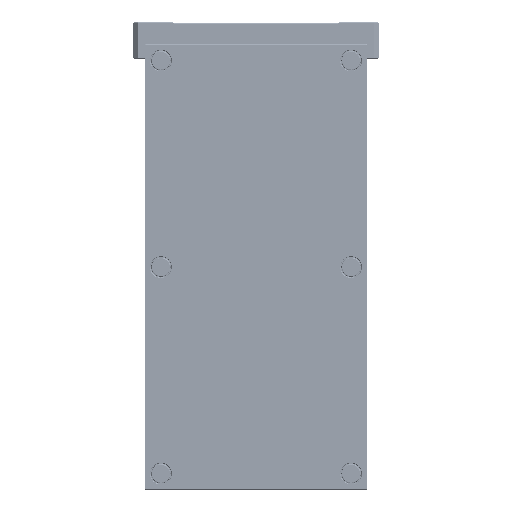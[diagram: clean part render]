
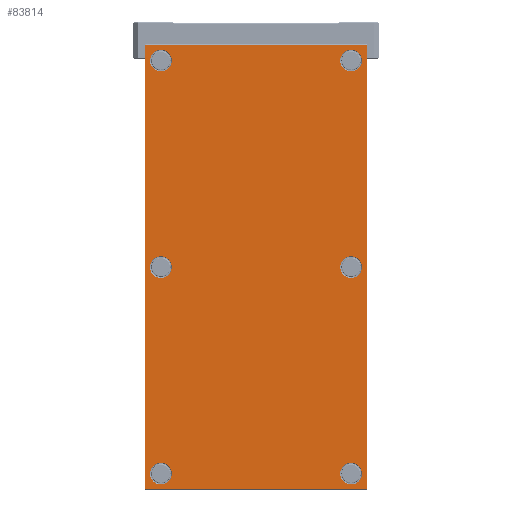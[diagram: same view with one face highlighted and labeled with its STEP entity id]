
A CAD part, front view. The second image highlights one B-rep face of the part: STEP entity #83814.
In plain terms, the highlighted planar face has unit normal (0, -1, 0).
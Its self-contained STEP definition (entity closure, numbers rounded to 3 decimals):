
#82373=CARTESIAN_POINT('',(149.,-9.,-74.));
#82374=DIRECTION('',(0.,-1.,0.));
#82375=DIRECTION('',(0.,0.,-1.));
#82376=AXIS2_PLACEMENT_3D('',#82373,#82374,#82375);
#82378=DIRECTION('',(1.,0.,0.));
#82379=VECTOR('',#82378,298.);
#82380=CARTESIAN_POINT('',(-149.,-9.,
-74.5));
#82381=LINE('',#82380,#82379);
#82382=CARTESIAN_POINT('',(-149.,-9.,-74.));
#82383=DIRECTION('',(0.,-1.,0.));
#82384=DIRECTION('',(-1.,0.,0.));
#82385=AXIS2_PLACEMENT_3D('',#82382,#82383,#82384);
#82387=DIRECTION('',(0.,0.,-1.));
#82388=VECTOR('',#82387,148.);
#82389=CARTESIAN_POINT('',(-149.5,-9.,74.));
#82390=LINE('',#82389,#82388);
#82391=CARTESIAN_POINT('',(-149.,-9.,74.));
#82392=DIRECTION('',(0.,-1.,0.));
#82393=DIRECTION('',(0.,0.,1.));
#82394=AXIS2_PLACEMENT_3D('',#82391,#82392,#82393);
#82396=DIRECTION('',(-1.,0.,0.));
#82397=VECTOR('',#82396,298.);
#82398=CARTESIAN_POINT('',(149.,-9.,
74.5));
#82399=LINE('',#82398,#82397);
#82400=CARTESIAN_POINT('',(149.,-9.,74.));
#82401=DIRECTION('',(0.,-1.,0.));
#82402=DIRECTION('',(1.,0.,0.));
#82403=AXIS2_PLACEMENT_3D('',#82400,#82401,#82402);
#82405=DIRECTION('',(0.,0.,1.));
#82406=VECTOR('',#82405,148.);
#82407=CARTESIAN_POINT('',(149.5,-9.,-74.));
#82408=LINE('',#82407,#82406);
#82409=CARTESIAN_POINT('',(-139.,-9.,-64.));
#82410=DIRECTION('',(0.,1.,0.));
#82411=DIRECTION('',(1.,0.,0.));
#82412=AXIS2_PLACEMENT_3D('',#82409,#82410,#82411);
#82414=CARTESIAN_POINT('',(-139.,-9.,-64.));
#82415=DIRECTION('',(0.,1.,0.));
#82416=DIRECTION('',(-1.,0.,0.));
#82417=AXIS2_PLACEMENT_3D('',#82414,#82415,#82416);
#82419=CARTESIAN_POINT('',(0.,-9.,-64.));
#82420=DIRECTION('',(0.,1.,0.));
#82421=DIRECTION('',(1.,0.,0.));
#82422=AXIS2_PLACEMENT_3D('',#82419,#82420,#82421);
#82424=CARTESIAN_POINT('',(0.,-9.,-64.));
#82425=DIRECTION('',(0.,1.,0.));
#82426=DIRECTION('',(-1.,0.,0.));
#82427=AXIS2_PLACEMENT_3D('',#82424,#82425,#82426);
#82429=CARTESIAN_POINT('',(139.,-9.,-64.));
#82430=DIRECTION('',(0.,1.,0.));
#82431=DIRECTION('',(1.,0.,0.));
#82432=AXIS2_PLACEMENT_3D('',#82429,#82430,#82431);
#82434=CARTESIAN_POINT('',(139.,-9.,-64.));
#82435=DIRECTION('',(0.,1.,0.));
#82436=DIRECTION('',(-1.,0.,0.));
#82437=AXIS2_PLACEMENT_3D('',#82434,#82435,#82436);
#82439=CARTESIAN_POINT('',(139.,-9.,64.));
#82440=DIRECTION('',(0.,1.,0.));
#82441=DIRECTION('',(1.,0.,0.));
#82442=AXIS2_PLACEMENT_3D('',#82439,#82440,#82441);
#82444=CARTESIAN_POINT('',(139.,-9.,64.));
#82445=DIRECTION('',(0.,1.,0.));
#82446=DIRECTION('',(-1.,0.,0.));
#82447=AXIS2_PLACEMENT_3D('',#82444,#82445,#82446);
#82449=CARTESIAN_POINT('',(0.,-9.,64.));
#82450=DIRECTION('',(0.,1.,0.));
#82451=DIRECTION('',(1.,0.,0.));
#82452=AXIS2_PLACEMENT_3D('',#82449,#82450,#82451);
#82454=CARTESIAN_POINT('',(0.,-9.,64.));
#82455=DIRECTION('',(0.,1.,0.));
#82456=DIRECTION('',(-1.,0.,0.));
#82457=AXIS2_PLACEMENT_3D('',#82454,#82455,#82456);
#82459=CARTESIAN_POINT('',(-139.,-9.,64.));
#82460=DIRECTION('',(0.,1.,0.));
#82461=DIRECTION('',(1.,0.,0.));
#82462=AXIS2_PLACEMENT_3D('',#82459,#82460,#82461);
#82464=CARTESIAN_POINT('',(-139.,-9.,64.));
#82465=DIRECTION('',(0.,1.,0.));
#82466=DIRECTION('',(-1.,0.,0.));
#82467=AXIS2_PLACEMENT_3D('',#82464,#82465,#82466);
#83543=CARTESIAN_POINT('',(149.,-9.,-74.5));
#83544=CARTESIAN_POINT('',(149.5,-9.,-74.));
#83545=VERTEX_POINT('',#83543);
#83546=VERTEX_POINT('',#83544);
#83551=CARTESIAN_POINT('',(149.5,-9.,
74.));
#83552=VERTEX_POINT('',#83551);
#83555=CARTESIAN_POINT('',(149.,-9.,74.5));
#83556=VERTEX_POINT('',#83555);
#83559=CARTESIAN_POINT('',(-149.,-9.,
74.5));
#83560=VERTEX_POINT('',#83559);
#83563=CARTESIAN_POINT('',(-149.5,-9.,74.));
#83564=VERTEX_POINT('',#83563);
#83567=CARTESIAN_POINT('',(-149.5,-9.,
-74.));
#83568=VERTEX_POINT('',#83567);
#83571=CARTESIAN_POINT('',(-149.,-9.,-74.5));
#83572=VERTEX_POINT('',#83571);
#83599=CARTESIAN_POINT('',(-131.7,-9.,-64.));
#83600=CARTESIAN_POINT('',(-146.3,-9.,-64.));
#83601=VERTEX_POINT('',#83599);
#83602=VERTEX_POINT('',#83600);
#83615=CARTESIAN_POINT('',(7.3,-9.,-64.));
#83616=CARTESIAN_POINT('',(-7.3,-9.,-64.));
#83617=VERTEX_POINT('',#83615);
#83618=VERTEX_POINT('',#83616);
#83639=CARTESIAN_POINT('',(146.3,-9.,-64.));
#83640=CARTESIAN_POINT('',(131.7,-9.,-64.));
#83641=VERTEX_POINT('',#83639);
#83642=VERTEX_POINT('',#83640);
#83655=CARTESIAN_POINT('',(146.3,-9.,64.));
#83656=CARTESIAN_POINT('',(131.7,-9.,64.));
#83657=VERTEX_POINT('',#83655);
#83658=VERTEX_POINT('',#83656);
#83663=CARTESIAN_POINT('',(7.3,-9.,64.));
#83664=CARTESIAN_POINT('',(-7.3,-9.,64.));
#83665=VERTEX_POINT('',#83663);
#83666=VERTEX_POINT('',#83664);
#83687=CARTESIAN_POINT('',(-131.7,-9.,64.));
#83688=CARTESIAN_POINT('',(-146.3,-9.,64.));
#83689=VERTEX_POINT('',#83687);
#83690=VERTEX_POINT('',#83688);
#83755=CARTESIAN_POINT('',(0.,-9.,0.));
#83756=DIRECTION('',(0.,1.,0.));
#83757=DIRECTION('',(1.,0.,0.));
#83758=AXIS2_PLACEMENT_3D('',#83755,#83756,#83757);
#83759=PLANE('',#83758);
#83761=ORIENTED_EDGE('',*,*,#83760,.F.);
#83763=ORIENTED_EDGE('',*,*,#83762,.F.);
#83765=ORIENTED_EDGE('',*,*,#83764,.F.);
#83767=ORIENTED_EDGE('',*,*,#83766,.F.);
#83769=ORIENTED_EDGE('',*,*,#83768,.F.);
#83771=ORIENTED_EDGE('',*,*,#83770,.F.);
#83773=ORIENTED_EDGE('',*,*,#83772,.F.);
#83775=ORIENTED_EDGE('',*,*,#83774,.F.);
#83776=EDGE_LOOP('',(#83761,#83763,#83765,#83767,#83769,#83771,#83773,#83775));
#83777=FACE_OUTER_BOUND('',#83776,.F.);
#83779=ORIENTED_EDGE('',*,*,#83778,.F.);
#83781=ORIENTED_EDGE('',*,*,#83780,.F.);
#83782=EDGE_LOOP('',(#83779,#83781));
#83783=FACE_BOUND('',#83782,.F.);
#83785=ORIENTED_EDGE('',*,*,#83784,.F.);
#83787=ORIENTED_EDGE('',*,*,#83786,.F.);
#83788=EDGE_LOOP('',(#83785,#83787));
#83789=FACE_BOUND('',#83788,.F.);
#83791=ORIENTED_EDGE('',*,*,#83790,.F.);
#83793=ORIENTED_EDGE('',*,*,#83792,.F.);
#83794=EDGE_LOOP('',(#83791,#83793));
#83795=FACE_BOUND('',#83794,.F.);
#83797=ORIENTED_EDGE('',*,*,#83796,.F.);
#83799=ORIENTED_EDGE('',*,*,#83798,.F.);
#83800=EDGE_LOOP('',(#83797,#83799));
#83801=FACE_BOUND('',#83800,.F.);
#83803=ORIENTED_EDGE('',*,*,#83802,.F.);
#83805=ORIENTED_EDGE('',*,*,#83804,.F.);
#83806=EDGE_LOOP('',(#83803,#83805));
#83807=FACE_BOUND('',#83806,.F.);
#83809=ORIENTED_EDGE('',*,*,#83808,.F.);
#83811=ORIENTED_EDGE('',*,*,#83810,.F.);
#83812=EDGE_LOOP('',(#83809,#83811));
#83813=FACE_BOUND('',#83812,.F.);
#83814=ADVANCED_FACE('',(#83777,#83783,#83789,#83795,#83801,#83807,#83813),
#83759,.F.);
#82377=CIRCLE('',#82376,0.5);
#82386=CIRCLE('',#82385,0.5);
#82395=CIRCLE('',#82394,0.5);
#82404=CIRCLE('',#82403,0.5);
#82413=CIRCLE('',#82412,7.3);
#82418=CIRCLE('',#82417,7.3);
#82423=CIRCLE('',#82422,7.3);
#82428=CIRCLE('',#82427,7.3);
#82433=CIRCLE('',#82432,7.3);
#82438=CIRCLE('',#82437,7.3);
#82443=CIRCLE('',#82442,7.3);
#82448=CIRCLE('',#82447,7.3);
#82453=CIRCLE('',#82452,7.3);
#82458=CIRCLE('',#82457,7.3);
#82463=CIRCLE('',#82462,7.3);
#82468=CIRCLE('',#82467,7.3);
#83760=EDGE_CURVE('',#83545,#83546,#82377,.T.);
#83762=EDGE_CURVE('',#83572,#83545,#82381,.T.);
#83764=EDGE_CURVE('',#83568,#83572,#82386,.T.);
#83766=EDGE_CURVE('',#83564,#83568,#82390,.T.);
#83768=EDGE_CURVE('',#83560,#83564,#82395,.T.);
#83770=EDGE_CURVE('',#83556,#83560,#82399,.T.);
#83772=EDGE_CURVE('',#83552,#83556,#82404,.T.);
#83774=EDGE_CURVE('',#83546,#83552,#82408,.T.);
#83778=EDGE_CURVE('',#83601,#83602,#82413,.T.);
#83780=EDGE_CURVE('',#83602,#83601,#82418,.T.);
#83784=EDGE_CURVE('',#83617,#83618,#82423,.T.);
#83786=EDGE_CURVE('',#83618,#83617,#82428,.T.);
#83790=EDGE_CURVE('',#83641,#83642,#82433,.T.);
#83792=EDGE_CURVE('',#83642,#83641,#82438,.T.);
#83796=EDGE_CURVE('',#83657,#83658,#82443,.T.);
#83798=EDGE_CURVE('',#83658,#83657,#82448,.T.);
#83802=EDGE_CURVE('',#83665,#83666,#82453,.T.);
#83804=EDGE_CURVE('',#83666,#83665,#82458,.T.);
#83808=EDGE_CURVE('',#83689,#83690,#82463,.T.);
#83810=EDGE_CURVE('',#83690,#83689,#82468,.T.);
